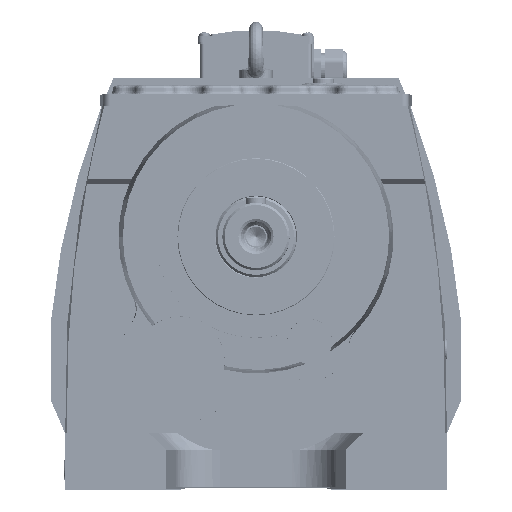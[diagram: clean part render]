
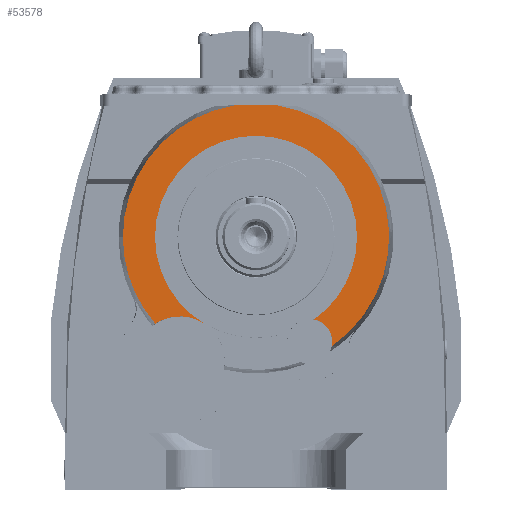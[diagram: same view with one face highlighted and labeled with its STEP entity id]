
A CAD part, top view. The second image highlights one B-rep face of the part: STEP entity #53578.
In plain terms, the highlighted planar face has unit normal (0, 0, 1).
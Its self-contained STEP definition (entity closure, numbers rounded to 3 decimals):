
#35122 = DIRECTION ( 'NONE',  ( -1., 0., 0. ) ) ;
#35158 = CARTESIAN_POINT ( 'NONE',  ( 0., 0., 204. ) ) ;
#35188 = DIRECTION ( 'NONE',  ( 0., 0., -1. ) ) ;
#35245 = CARTESIAN_POINT ( 'NONE',  ( 47.859, -93.342, 204. ) ) ;
#35252 = DIRECTION ( 'NONE',  ( 0., 0., -1. ) ) ;
#35256 = DIRECTION ( 'NONE',  ( -1., 0., 0. ) ) ;
#35375 = DIRECTION ( 'NONE',  ( -1., 0., 0. ) ) ;
#35454 = CARTESIAN_POINT ( 'NONE',  ( 0., 0., 204. ) ) ;
#35486 = DIRECTION ( 'NONE',  ( 0., 0., -1. ) ) ;
#35495 = DIRECTION ( 'NONE',  ( -1., 0., 0. ) ) ;
#35504 = CARTESIAN_POINT ( 'NONE',  ( 0., 0., 204. ) ) ;
#35516 = DIRECTION ( 'NONE',  ( 0., 0., -1. ) ) ;
#38106 = CARTESIAN_POINT ( 'NONE',  ( 0., 0., 204. ) ) ;
#38121 = DIRECTION ( 'NONE',  ( 0., 0., -1. ) ) ;
#38148 = DIRECTION ( 'NONE',  ( -1., 0., 0. ) ) ;
#38187 = CARTESIAN_POINT ( 'NONE',  ( 0., 0., 204. ) ) ;
#38234 = DIRECTION ( 'NONE',  ( 0., 0., -1. ) ) ;
#38242 = DIRECTION ( 'NONE',  ( -1., 0., 0. ) ) ;
#38360 = CARTESIAN_POINT ( 'NONE',  ( -137., 117., 204. ) ) ;
#38365 = DIRECTION ( 'NONE',  ( -1., 0., 0. ) ) ;
#38370 = DIRECTION ( 'NONE',  ( 0., 0., -1. ) ) ;
#38413 = CARTESIAN_POINT ( 'NONE',  ( -67.814, -110.911, 204. ) ) ;
#38438 = DIRECTION ( 'NONE',  ( -1., 0., 0. ) ) ;
#38765 = DIRECTION ( 'NONE',  ( -1., 0., 0. ) ) ;
#38790 = CARTESIAN_POINT ( 'NONE',  ( 0., 0., 204. ) ) ;
#38855 = DIRECTION ( 'NONE',  ( 0., 0., -1. ) ) ;
#39168 = CARTESIAN_POINT ( 'NONE',  ( 47.859, -93.342, 204. ) ) ;
#39230 = DIRECTION ( 'NONE',  ( 0., 0., -1. ) ) ;
#39245 = DIRECTION ( 'NONE',  ( -1., 0., 0. ) ) ;
#53578 = ADVANCED_FACE ( 'NONE', ( #271097 ), #295519, .T. ) ;
#74879 = AXIS2_PLACEMENT_3D ( 'NONE', #295594, #295716, #295679 ) ;
#84505 = CIRCLE ( 'NONE', #144778, 118.622 ) ;
#84533 = CIRCLE ( 'NONE', #144787, 90. ) ;
#84642 = CIRCLE ( 'NONE', #144711, 20. ) ;
#84781 = CIRCLE ( 'NONE', #144694, 90. ) ;
#87938 = CIRCLE ( 'NONE', #144840, 20. ) ;
#132671 = AXIS2_PLACEMENT_3D ( 'NONE', #38106, #38121, #38148 ) ;
#132692 = AXIS2_PLACEMENT_3D ( 'NONE', #38790, #38855, #38765 ) ;
#132694 = AXIS2_PLACEMENT_3D ( 'NONE', #38413, #38370, #38438 ) ;
#132714 = AXIS2_PLACEMENT_3D ( 'NONE', #38187, #38234, #38242 ) ;
#144694 = AXIS2_PLACEMENT_3D ( 'NONE', #35454, #35486, #35495 ) ;
#144711 = AXIS2_PLACEMENT_3D ( 'NONE', #35245, #35188, #35122 ) ;
#144778 = AXIS2_PLACEMENT_3D ( 'NONE', #35158, #35252, #35256 ) ;
#144787 = AXIS2_PLACEMENT_3D ( 'NONE', #35504, #35516, #35375 ) ;
#144840 = AXIS2_PLACEMENT_3D ( 'NONE', #39168, #39230, #39245 ) ;
#200402 = ORIENTED_EDGE ( 'NONE', *, *, #236409, .T. ) ;
#200450 = ORIENTED_EDGE ( 'NONE', *, *, #236451, .T. ) ;
#200602 = ORIENTED_EDGE ( 'NONE', *, *, #263233, .T. ) ;
#200606 = ORIENTED_EDGE ( 'NONE', *, *, #236374, .F. ) ;
#200635 = ORIENTED_EDGE ( 'NONE', *, *, #263215, .T. ) ;
#200713 = ORIENTED_EDGE ( 'NONE', *, *, #263194, .F. ) ;
#200731 = ORIENTED_EDGE ( 'NONE', *, *, #236349, .T. ) ;
#200772 = ORIENTED_EDGE ( 'NONE', *, *, #263173, .T. ) ;
#200828 = ORIENTED_EDGE ( 'NONE', *, *, #236522, .T. ) ;
#200846 = ORIENTED_EDGE ( 'NONE', *, *, #263318, .F. ) ;
#227629 = CARTESIAN_POINT ( 'NONE',  ( -19.548, 117., 204. ) ) ;
#227695 = CARTESIAN_POINT ( 'NONE',  ( 19.548, 117., 204. ) ) ;
#236349 = EDGE_CURVE ( 'NONE', #284393, #284704, #84642, .T. ) ;
#236374 = EDGE_CURVE ( 'NONE', #284603, #284627, #84505, .T. ) ;
#236409 = EDGE_CURVE ( 'NONE', #284811, #284676, #84533, .T. ) ;
#236451 = EDGE_CURVE ( 'NONE', #284791, #284811, #84781, .T. ) ;
#236522 = EDGE_CURVE ( 'NONE', #284704, #284771, #87938, .T. ) ;
#241683 = CIRCLE ( 'NONE', #132671, 90. ) ;
#241833 = CIRCLE ( 'NONE', #132714, 118.622 ) ;
#241872 = CIRCLE ( 'NONE', #132694, 40. ) ;
#242070 = LINE ( 'NONE', #38360, #242085 ) ;
#242085 = VECTOR ( 'NONE', #38365, 1000. ) ;
#242192 = CIRCLE ( 'NONE', #132692, 118.622 ) ;
#248274 = CARTESIAN_POINT ( 'NONE',  ( 51.649, -73.705, 204. ) ) ;
#248499 = CARTESIAN_POINT ( 'NONE',  ( -89.806, -77.499, 204. ) ) ;
#248517 = CARTESIAN_POINT ( 'NONE',  ( -118.622, 0., 204. ) ) ;
#248638 = CARTESIAN_POINT ( 'NONE',  ( 90., 0., 204. ) ) ;
#248670 = CARTESIAN_POINT ( 'NONE',  ( 67.859, -93.342, 204. ) ) ;
#248678 = CARTESIAN_POINT ( 'NONE',  ( -90., 0., 204. ) ) ;
#248702 = CARTESIAN_POINT ( 'NONE',  ( 67.397, -97.615, 204. ) ) ;
#248708 = CARTESIAN_POINT ( 'NONE',  ( -46.948, -76.784, 204. ) ) ;
#263173 = EDGE_CURVE ( 'NONE', #284676, #284393, #241683, .T. ) ;
#263194 = EDGE_CURVE ( 'NONE', #284627, #276597, #241833, .T. ) ;
#263215 = EDGE_CURVE ( 'NONE', #284603, #284791, #241872, .T. ) ;
#263233 = EDGE_CURVE ( 'NONE', #276549, #276597, #242070, .T. ) ;
#263318 = EDGE_CURVE ( 'NONE', #276549, #284771, #242192, .T. ) ;
#271097 = FACE_OUTER_BOUND ( 'NONE', #300667, .T. ) ;
#276549 = VERTEX_POINT ( 'NONE', #227695 ) ;
#276597 = VERTEX_POINT ( 'NONE', #227629 ) ;
#284393 = VERTEX_POINT ( 'NONE', #248274 ) ;
#284603 = VERTEX_POINT ( 'NONE', #248499 ) ;
#284627 = VERTEX_POINT ( 'NONE', #248517 ) ;
#284676 = VERTEX_POINT ( 'NONE', #248638 ) ;
#284704 = VERTEX_POINT ( 'NONE', #248670 ) ;
#284771 = VERTEX_POINT ( 'NONE', #248702 ) ;
#284791 = VERTEX_POINT ( 'NONE', #248708 ) ;
#284811 = VERTEX_POINT ( 'NONE', #248678 ) ;
#295519 = PLANE ( 'NONE',  #74879 ) ;
#295594 = CARTESIAN_POINT ( 'NONE',  ( 0., 0., 204. ) ) ;
#295679 = DIRECTION ( 'NONE',  ( 1., 0., 0. ) ) ;
#295716 = DIRECTION ( 'NONE',  ( 0., 0., 1. ) ) ;
#300667 = EDGE_LOOP ( 'NONE', ( #200606, #200635, #200450, #200402, #200772, #200731, #200828, #200846, #200602, #200713 ) ) ;
